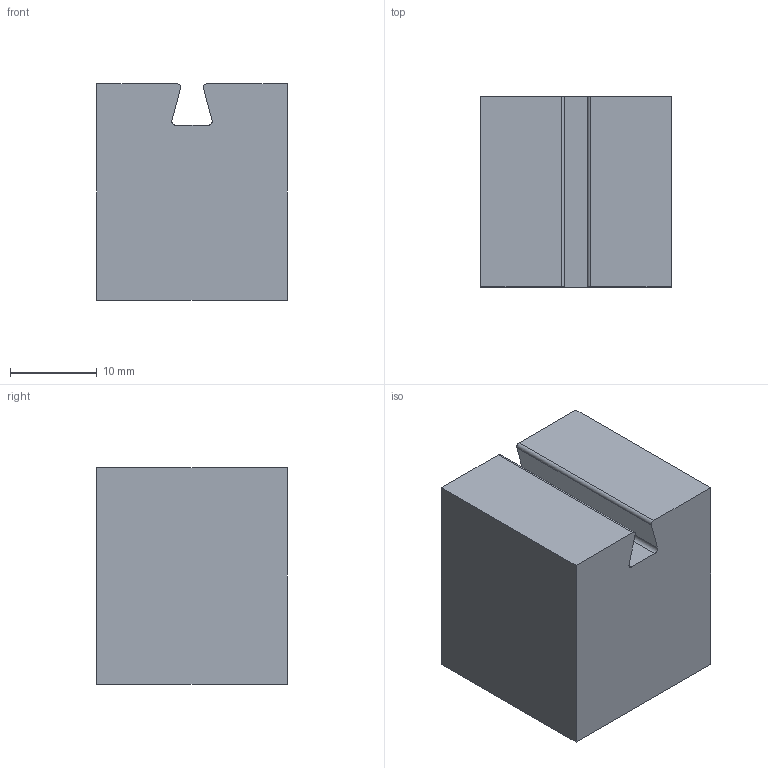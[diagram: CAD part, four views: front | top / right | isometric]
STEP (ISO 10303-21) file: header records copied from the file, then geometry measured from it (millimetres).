
FILE_DESCRIPTION (( 'STEP AP203' ), '1' );
FILE_NAME ('ALA10 Male Dovetail subtraction.STEP', '2021-01-13T20:02:37', ( '' ), ( '' ), 'SwSTEP 2.0', 'SolidWorks 2020', '' );
FILE_SCHEMA (( 'CONFIG_CONTROL_DESIGN' ));
Length unit declared in the file: inch
Products named in the file (1): ALA10 Male Dovetail subtraction
Bounding box: 22 x 22 x 25 mm (x, y, z)
Volume: 11716.4 mm3; surface area: 3400 mm2
Topology: 1 solids, 1 shells, 145 faces, 372 edges, 248 vertices
Faces by surface type: plane 117, bspline 24, cylinder 4
Entity records: 6169 total; most frequent: CARTESIAN_POINT 2710, ORIENTED_EDGE 744, DIRECTION 576, EDGE_CURVE 372, LINE 316, VECTOR 316, VERTEX_POINT 248, EDGE_LOOP 164
